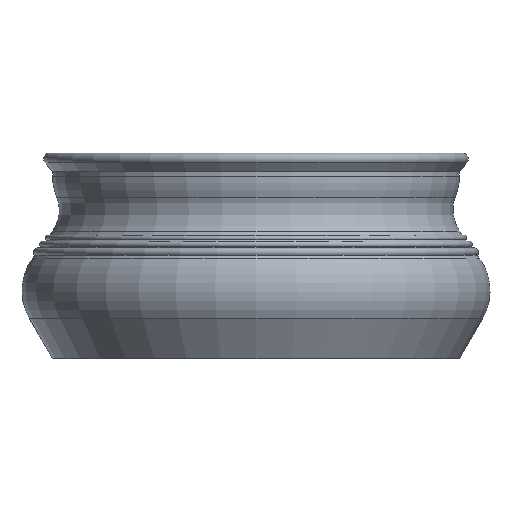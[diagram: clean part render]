
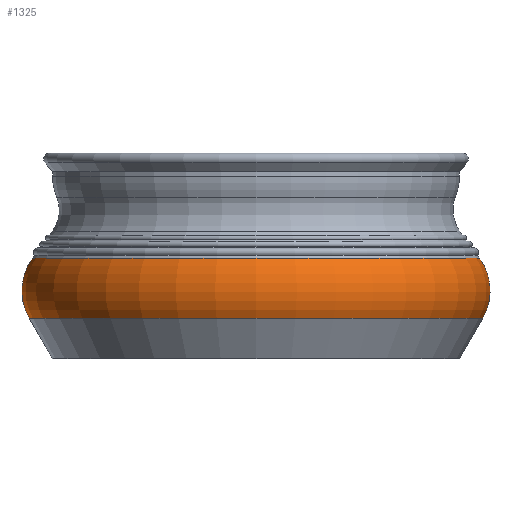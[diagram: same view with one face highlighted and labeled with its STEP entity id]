
A CAD part, front view. The second image highlights one B-rep face of the part: STEP entity #1325.
In plain terms, the highlighted toroidal (fillet/blend) face has major radius 152.136 mm and minor radius 46.864 mm.
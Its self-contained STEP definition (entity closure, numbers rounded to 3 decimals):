
#22=TOROIDAL_SURFACE('',#1505,152.136,46.864);
#166=FACE_OUTER_BOUND('',#284,.T.);
#284=EDGE_LOOP('',(#1208,#1209,#1210,#1211));
#526=CIRCLE('',#1467,192.841);
#549=CIRCLE('',#1506,189.901);
#550=CIRCLE('',#1507,46.864);
#653=VERTEX_POINT('',#2240);
#669=VERTEX_POINT('',#2303);
#818=EDGE_CURVE('',#653,#653,#526,.T.);
#849=EDGE_CURVE('',#669,#669,#549,.T.);
#850=EDGE_CURVE('',#669,#653,#550,.T.);
#1208=ORIENTED_EDGE('',*,*,#849,.F.);
#1209=ORIENTED_EDGE('',*,*,#850,.T.);
#1210=ORIENTED_EDGE('',*,*,#818,.T.);
#1211=ORIENTED_EDGE('',*,*,#850,.F.);
#1325=ADVANCED_FACE('',(#166),#22,.T.);
#1467=AXIS2_PLACEMENT_3D('',#2241,#1837,#1838);
#1505=AXIS2_PLACEMENT_3D('',#2302,#1921,#1922);
#1506=AXIS2_PLACEMENT_3D('',#2304,#1923,#1924);
#1507=AXIS2_PLACEMENT_3D('',#2305,#1925,#1926);
#1837=DIRECTION('center_axis',(0.,0.,1.));
#1838=DIRECTION('ref_axis',(1.,0.,0.));
#1921=DIRECTION('center_axis',(0.,0.,1.));
#1922=DIRECTION('ref_axis',(1.,0.,0.));
#1923=DIRECTION('center_axis',(0.,0.,1.));
#1924=DIRECTION('ref_axis',(1.,0.,0.));
#1925=DIRECTION('center_axis',(0.,-1.,0.));
#1926=DIRECTION('ref_axis',(-1.,0.,0.));
#2240=CARTESIAN_POINT('',(-192.841,0.,34.776));
#2241=CARTESIAN_POINT('Origin',(0.,0.,34.776));
#2302=CARTESIAN_POINT('Origin',(0.,0.,58.));
#2303=CARTESIAN_POINT('',(-189.901,0.,85.75));
#2304=CARTESIAN_POINT('Origin',(0.,0.,85.75));
#2305=CARTESIAN_POINT('Origin',(-152.136,0.,
58.));
